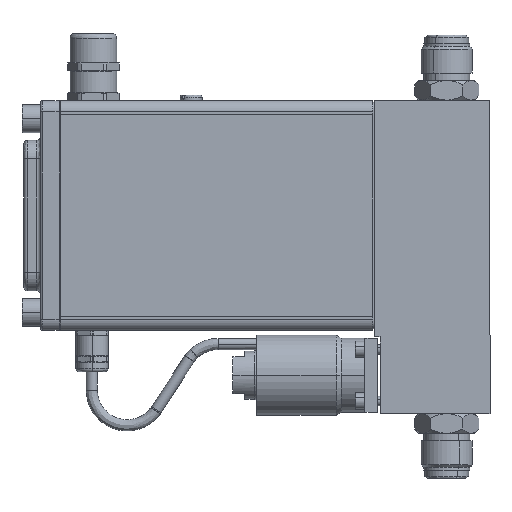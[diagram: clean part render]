
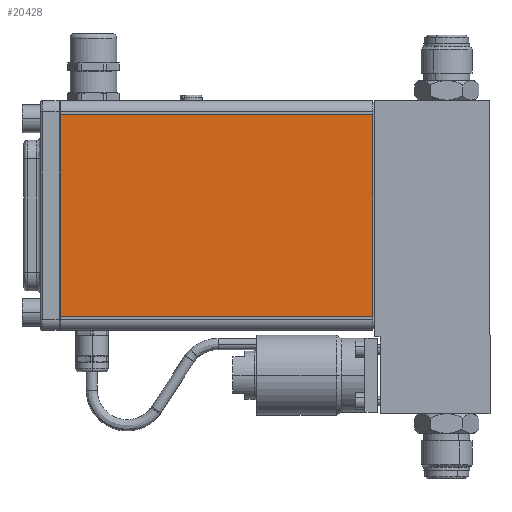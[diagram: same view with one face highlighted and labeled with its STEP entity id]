
A CAD part, left-side view. The second image highlights one B-rep face of the part: STEP entity #20428.
In plain terms, the highlighted planar face has unit normal (-1, 0, 0).
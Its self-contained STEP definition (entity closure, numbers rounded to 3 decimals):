
#465 = FACE_OUTER_BOUND ( 'NONE', #19735, .T. ) ;
#777 = AXIS2_PLACEMENT_3D ( 'NONE', #6884, #7021, #4834 ) ;
#4395 = CARTESIAN_POINT ( 'NONE',  ( -48.956, 50.135, 127.764 ) ) ;
#4834 = DIRECTION ( 'NONE',  ( 0., -1., 0. ) ) ;
#5789 = ORIENTED_EDGE ( 'NONE', *, *, #11929, .F. ) ;
#6570 = ORIENTED_EDGE ( 'NONE', *, *, #14493, .F. ) ;
#6884 = CARTESIAN_POINT ( 'NONE',  ( -48.956, 183.485, 127.764 ) ) ;
#7011 = VERTEX_POINT ( 'NONE', #28720 ) ;
#7021 = DIRECTION ( 'NONE',  ( 1., 0., 0. ) ) ;
#9003 = VECTOR ( 'NONE', #26378, 1000. ) ;
#10793 = LINE ( 'NONE', #4395, #11399 ) ;
#11251 = VECTOR ( 'NONE', #28576, 1000. ) ;
#11299 = CARTESIAN_POINT ( 'NONE',  ( -48.956, 183.485, 41.581 ) ) ;
#11399 = VECTOR ( 'NONE', #15453, 1000. ) ;
#11929 = EDGE_CURVE ( 'NONE', #7011, #21894, #28284, .T. ) ;
#12164 = LINE ( 'NONE', #22907, #16754 ) ;
#13627 = CARTESIAN_POINT ( 'NONE',  ( -48.956, 50.135, 41.581 ) ) ;
#13746 = ORIENTED_EDGE ( 'NONE', *, *, #19975, .F. ) ;
#14493 = EDGE_CURVE ( 'NONE', #15511, #7011, #26521, .T. ) ;
#15093 = EDGE_CURVE ( 'NONE', #24221, #15511, #10793, .T. ) ;
#15453 = DIRECTION ( 'NONE',  ( 0., 0., -1. ) ) ;
#15511 = VERTEX_POINT ( 'NONE', #13627 ) ;
#16267 = CARTESIAN_POINT ( 'NONE',  ( -48.956, 183.485, 127.764 ) ) ;
#16754 = VECTOR ( 'NONE', #27534, 1000. ) ;
#17025 = CARTESIAN_POINT ( 'NONE',  ( -48.956, 50.135, 127.764 ) ) ;
#17774 = PLANE ( 'NONE',  #777 ) ;
#19284 = ORIENTED_EDGE ( 'NONE', *, *, #15093, .F. ) ;
#19316 = CARTESIAN_POINT ( 'NONE',  ( -48.956, 183.485, 127.764 ) ) ;
#19735 = EDGE_LOOP ( 'NONE', ( #5789, #6570, #19284, #13746 ) ) ;
#19975 = EDGE_CURVE ( 'NONE', #21894, #24221, #12164, .T. ) ;
#20428 = ADVANCED_FACE ( 'NONE', ( #465 ), #17774, .F. ) ;
#21894 = VERTEX_POINT ( 'NONE', #16267 ) ;
#22907 = CARTESIAN_POINT ( 'NONE',  ( -48.956, 183.485, 127.764 ) ) ;
#24221 = VERTEX_POINT ( 'NONE', #17025 ) ;
#26378 = DIRECTION ( 'NONE',  ( 0., 1., 0. ) ) ;
#26521 = LINE ( 'NONE', #11299, #9003 ) ;
#27534 = DIRECTION ( 'NONE',  ( 0., -1., 0. ) ) ;
#28284 = LINE ( 'NONE', #19316, #11251 ) ;
#28576 = DIRECTION ( 'NONE',  ( 0., 0., 1. ) ) ;
#28720 = CARTESIAN_POINT ( 'NONE',  ( -48.956, 183.485, 41.581 ) ) ;
